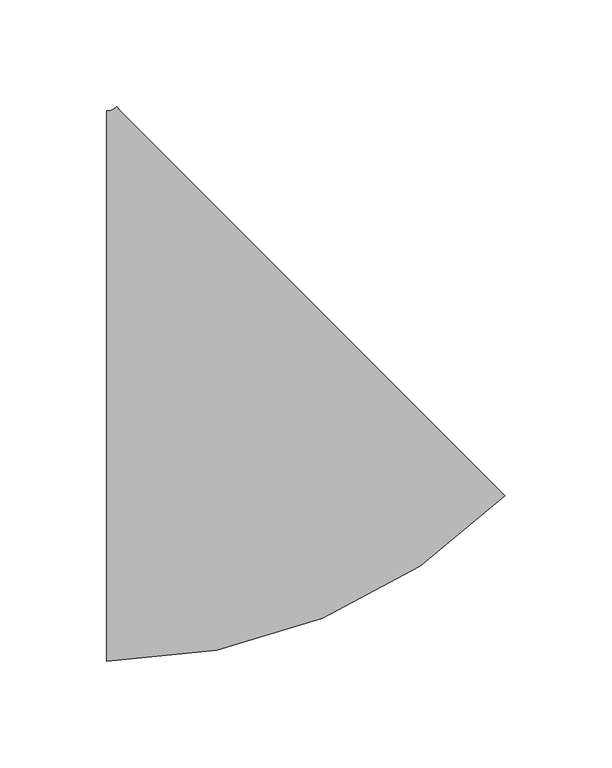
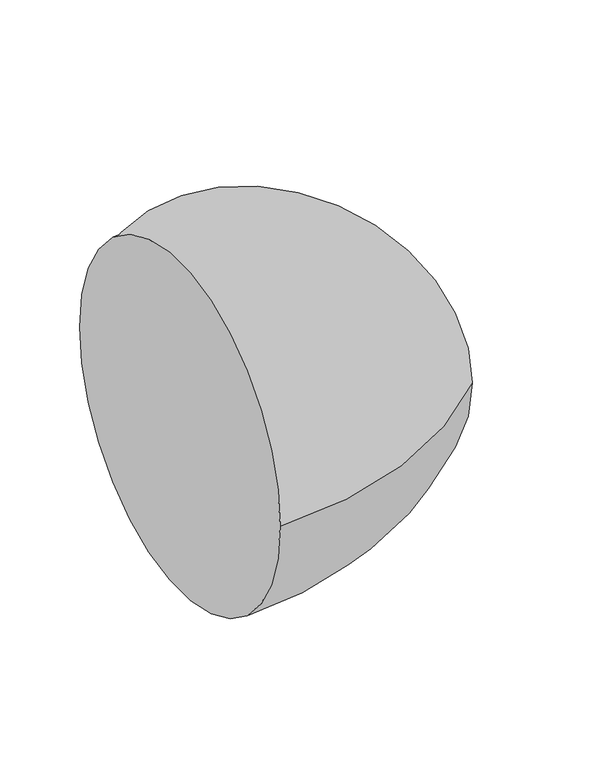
"""IFC4 building model written with IfcOpenShell, lengths in millimetres: pipe fitting geometry, M_Codo - Genérico : Estándar."""

from ifc_helpers import new_model, si_unit, point, frame, origin, place, context, project, spatial, circle_curve, ellipse_curve, trimmed, source, transform, mapped, element, save
from ifc_brep_helpers import plane_surface, revolved_surface, advanced_brep


def pipe_fitting_8de1e6f0(model_context):
    return source(origin(), model_context, "Body", "AdvancedBrep", [
        advanced_brep(
        [(-55.8847079, -128.5875, 0.0), (-55.8847079, 128.5875, 0.0), (130.4361927, -51.4222263, 0.0), (-51.3950477, 130.4469042, 0.0)],
        [
            (0, 1, circle_curve(frame((-55.8847079, 0.0, 0.0), z_axis=(-1.0, 0.0, 0.0), x_axis=(0.0, 1.0, 0.0)), 128.5875)),
            (1, 0, circle_curve(frame((-55.8847079, 0.0, 0.0), z_axis=(-1.0, 0.0, 0.0), x_axis=(0.0, 1.0, 0.0)), 128.5875)),
            (2, 3, circle_curve(frame((39.5205725, 39.5123389, 0.0), z_axis=(0.7071804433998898, 0.7070331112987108, 0.0), x_axis=(-0.7070331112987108, 0.7071804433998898, 0.0)), 128.5875)),
            (3, 2, circle_curve(frame((39.5205725, 39.5123389, 0.0), z_axis=(0.7071804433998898, 0.7070331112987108, 0.0), x_axis=(-0.7070331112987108, 0.7071804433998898, 0.0)), 128.5875)),
            (3, 1, circle_curve(frame((-55.8847079, 134.9375, 0.0), z_axis=(0.0, 0.0, -1.0), x_axis=(0.0, -1.0, 0.0)), 6.35)),
            (0, 2, circle_curve(frame((-55.8847079, 134.9375, 0.0), z_axis=(0.0, 0.0, 1.0), x_axis=(0.0, -1.0, 0.0)), 263.525)),
        ],
        [
            plane_surface(frame((-55.8847079, 0.0, 0.0), z_axis=(-1.0, 0.0, 0.0), x_axis=(0.0, 0.0, 1.0))),
            plane_surface(frame((39.5205725, 39.5123389, 0.0), z_axis=(0.7071804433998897, 0.7070331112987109, 0.0), x_axis=(0.0, 0.0, 1.0))),
            revolved_surface(trimmed(ellipse_curve(frame((-55.8847079, 0.0, 0.0), z_axis=(-1.0, 0.0, 0.0), x_axis=(0.0, 1.0, 0.0)), 128.5875, 128.5875), [point((-55.8847079, -128.5875, 0.0))], [point((-55.8847079, 128.5875, 0.0))], True, "CARTESIAN"), (-55.8847079, 134.9375, 0.0), (0.0, 0.0, 1.0)),
            revolved_surface(trimmed(ellipse_curve(frame((-55.8847079, 0.0, 0.0), z_axis=(-1.0, 0.0, 0.0), x_axis=(0.0, 1.0, 0.0)), 128.5875, 128.5875), [point((-55.8847079, 128.5875, 0.0))], [point((-55.8847079, -128.5875, 0.0))], True, "CARTESIAN"), (-55.8847079, 134.9375, 0.0), (0.0, 0.0, 1.0)),
        ],
        [
            (0, [[1, 2]]),
            (1, [[3, 4]]),
            (2, [[5, -1, 6, -4]]),
            (3, [[-6, -2, -5, -3]]),
        ],
    ),
    ])


if __name__ == "__main__":
    model = new_model("IFC4")
    model_context = context("Model", 3, world=origin())
    ifc_project = project(units=[si_unit("LENGTHUNIT", "METRE", prefix="MILLI")], contexts=[model_context])
    site = spatial("IfcSite", under=ifc_project)
    building = spatial("IfcBuilding", under=site)
    placement = place(None, origin())
    pipe_fitting_shape = pipe_fitting_8de1e6f0(model_context)
    element("IfcPipeFitting", 1, ObjectType="M_Codo - Genérico : Estándar", at=placement, inside=building, context=model_context, shape_type="MappedRepresentation", body=[
        mapped(pipe_fitting_shape, transform((0.0, 0.0, 0.0), x_axis=(1.0, 0.0, 0.0), y_axis=(0.0, 1.0, 0.0), z_axis=(0.0, 0.0, 1.0))),
    ])
    save(model, "model.ifc")
